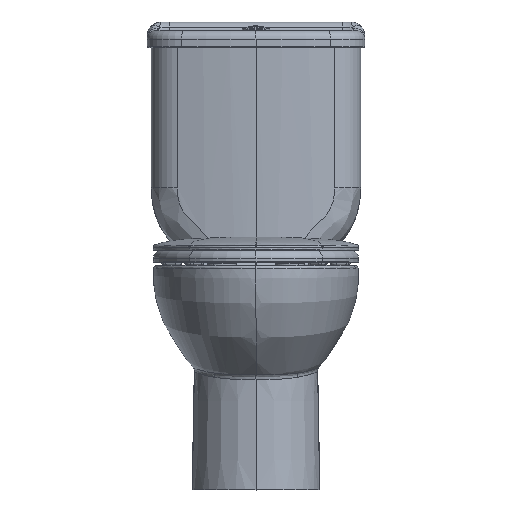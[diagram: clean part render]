
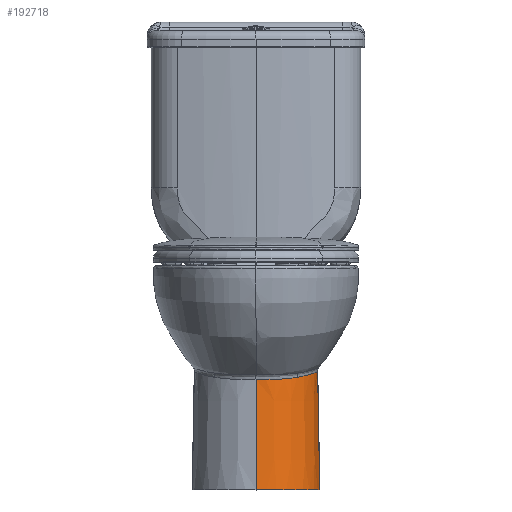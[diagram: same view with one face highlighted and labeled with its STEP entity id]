
A CAD part, top view. The second image highlights one B-rep face of the part: STEP entity #192718.
In plain terms, the highlighted conical face has half-angle 1 degrees and reference radius 112.534 mm.
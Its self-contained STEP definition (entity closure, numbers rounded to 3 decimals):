
#4952 = CONICAL_SURFACE ( 'NONE', #448396, 112.534, 0.017 ) ;
#7455 = CARTESIAN_POINT ( 'NONE',  ( 53.579, -199.598, 218.853 ) ) ;
#7769 = CARTESIAN_POINT ( 'NONE',  ( 98.662, -190.88, 170.124 ) ) ;
#12640 = CARTESIAN_POINT ( 'NONE',  ( 67.265, -197.977, 209.639 ) ) ;
#12976 = DIRECTION ( 'NONE',  ( 0., -1., 0.017 ) ) ;
#15212 = CARTESIAN_POINT ( 'NONE',  ( 61.958, -198.708, 213.602 ) ) ;
#20016 = DIRECTION ( 'NONE',  ( 0.017, -1., 0.002 ) ) ;
#22655 = ORIENTED_EDGE ( 'NONE', *, *, #349271, .T. ) ;
#39108 = ORIENTED_EDGE ( 'NONE', *, *, #279037, .F. ) ;
#43920 = VERTEX_POINT ( 'NONE', #283541 ) ;
#46772 = CARTESIAN_POINT ( 'NONE',  ( 69.85, -197.582, 207.542 ) ) ;
#47091 = CARTESIAN_POINT ( 'NONE',  ( 90.249, -193.365, 184.977 ) ) ;
#49357 = CARTESIAN_POINT ( 'NONE',  ( 46.219, -200.12, 222.608 ) ) ;
#54510 = CARTESIAN_POINT ( 'NONE',  ( 3.027, -200.896, 232.847 ) ) ;
#70404 = B_SPLINE_CURVE_WITH_KNOTS ( 'NONE', 3,
 ( #402974, #334704, #54510, #209135, #295436, #292862, #413325, #214282, #452604, #285101, #88633, #455175, #366260, #245820, #250992, #86041, #169815, #329561, #326964, #211715, #49357, #371436, #7455, #374016, #15212, #494482, #12640, #46772, #248418, #167222 ),
 .UNSPECIFIED., .F., .F.,
 ( 4, 2, 2, 2, 2, 2, 2, 2, 2, 2, 2, 2, 2, 2, 4 ),
 ( 0., 0.057, 0.12, 0.245, 0.371, 0.434, 0.466, 0.481, 0.497, 0.56, 0.623, 0.748, 0.874, 0.937, 1. ),
 .UNSPECIFIED. ) ;
#74105 = LINE ( 'NONE', #140455, #285534 ) ;
#78349 = EDGE_CURVE ( 'NONE', #477175, #396627, #74105, .T. ) ;
#81174 = CARTESIAN_POINT ( 'NONE',  ( 100.052, -190.398, 167.022 ) ) ;
#86041 = CARTESIAN_POINT ( 'NONE',  ( 37.757, -200.473, 226.133 ) ) ;
#87164 = CARTESIAN_POINT ( 'NONE',  ( 112.026, -395., 134.418 ) ) ;
#88633 = CARTESIAN_POINT ( 'NONE',  ( 32.235, -200.578, 228.017 ) ) ;
#117900 = CARTESIAN_POINT ( 'NONE',  ( 74.923, -196.731, 203.076 ) ) ;
#123041 = CARTESIAN_POINT ( 'NONE',  ( 77.362, -196.272, 200.686 ) ) ;
#135975 = LINE ( 'NONE', #295770, #457994 ) ;
#137218 = VERTEX_POINT ( 'NONE', #274329 ) ;
#140455 = CARTESIAN_POINT ( 'NONE',  ( 112.026, -395., 134.418 ) ) ;
#157182 = CARTESIAN_POINT ( 'NONE',  ( 81.99, -195.329, 195.711 ) ) ;
#164132 = CARTESIAN_POINT ( 'NONE',  ( 0., -200.898, 232.878 ) ) ;
#167222 = CARTESIAN_POINT ( 'NONE',  ( 72.353, -197.167, 205.364 ) ) ;
#167544 = CARTESIAN_POINT ( 'NONE',  ( 84.178, -194.844, 193.125 ) ) ;
#169815 = CARTESIAN_POINT ( 'NONE',  ( 38.149, -200.462, 225.987 ) ) ;
#187999 =( BOUNDED_CURVE ( )  B_SPLINE_CURVE ( 3, ( #408481, #117900, #123041, #157182, #167544, #476722, #47091, #316956, #285416, #484447, #199083, #327285, #405896, #7769, #81174, #240950, #366577, #481873, #445165, #282818, #280230, #206859, #369180, #487053 ),
 .UNSPECIFIED., .F., .F. ) 
 B_SPLINE_CURVE_WITH_KNOTS ( ( 4, 2, 2, 2, 2, 2, 2, 2, 2, 2, 2, 4 ),
 ( 0., 0.125, 0.25, 0.375, 0.437, 0.469, 0.5, 0.625, 0.75, 0.875, 0.938, 1. ),
 .UNSPECIFIED. ) 
 CURVE ( )  GEOMETRIC_REPRESENTATION_ITEM ( )  RATIONAL_B_SPLINE_CURVE ( ( 1., 1., 1., 1., 1., 1., 1., 1., 1., 1., 1., 1., 1., 1., 1., 1., 1., 1., 1., 1., 1., 1., 1., 1. ) ) 
 REPRESENTATION_ITEM ( '' )  );
#189906 = DIRECTION ( 'NONE',  ( 0., -1., 0. ) ) ;
#192718 = ADVANCED_FACE ( 'NONE', ( #433402 ), #4952, .T. ) ;
#195208 = DIRECTION ( 'NONE',  ( 0., 0., 1. ) ) ;
#199083 = CARTESIAN_POINT ( 'NONE',  ( 95.531, -191.867, 176.201 ) ) ;
#206859 = CARTESIAN_POINT ( 'NONE',  ( 108.035, -186.513, 137.498 ) ) ;
#208070 = EDGE_CURVE ( 'NONE', #43920, #477175, #187999, .T. ) ;
#209135 = CARTESIAN_POINT ( 'NONE',  ( 6.21, -200.885, 232.714 ) ) ;
#210367 = ORIENTED_EDGE ( 'NONE', *, *, #383541, .T. ) ;
#211715 = CARTESIAN_POINT ( 'NONE',  ( 44.712, -200.203, 223.301 ) ) ;
#214282 = CARTESIAN_POINT ( 'NONE',  ( 22.63, -200.725, 230.555 ) ) ;
#226962 = AXIS2_PLACEMENT_3D ( 'NONE', #391678, #433551, #195208 ) ;
#240950 = CARTESIAN_POINT ( 'NONE',  ( 102.534, -189.462, 160.713 ) ) ;
#245820 = CARTESIAN_POINT ( 'NONE',  ( 36.578, -200.501, 226.56 ) ) ;
#248418 = CARTESIAN_POINT ( 'NONE',  ( 71.118, -197.377, 206.463 ) ) ;
#250992 = CARTESIAN_POINT ( 'NONE',  ( 36.972, -200.492, 226.419 ) ) ;
#271073 = DIRECTION ( 'NONE',  ( 0., 0., 1. ) ) ;
#274329 = CARTESIAN_POINT ( 'NONE',  ( 0., -395., 236.266 ) ) ;
#279037 = EDGE_CURVE ( 'NONE', #291677, #43920, #70404, .T. ) ;
#280230 = CARTESIAN_POINT ( 'NONE',  ( 107.552, -186.899, 140.908 ) ) ;
#282818 = CARTESIAN_POINT ( 'NONE',  ( 107.27, -187.098, 142.609 ) ) ;
#283541 = CARTESIAN_POINT ( 'NONE',  ( 72.353, -197.167, 205.364 ) ) ;
#285101 = CARTESIAN_POINT ( 'NONE',  ( 30.645, -200.602, 228.496 ) ) ;
#285416 = CARTESIAN_POINT ( 'NONE',  ( 93.849, -192.367, 179.19 ) ) ;
#285534 = VECTOR ( 'NONE', #20016, 1000. ) ;
#291677 = VERTEX_POINT ( 'NONE', #164132 ) ;
#292862 = CARTESIAN_POINT ( 'NONE',  ( 12.842, -200.842, 232.17 ) ) ;
#295436 = CARTESIAN_POINT ( 'NONE',  ( 7.873, -200.876, 232.606 ) ) ;
#295770 = CARTESIAN_POINT ( 'NONE',  ( 0., -395., 236.266 ) ) ;
#316956 = CARTESIAN_POINT ( 'NONE',  ( 92.973, -192.617, 180.656 ) ) ;
#326964 = CARTESIAN_POINT ( 'NONE',  ( 41.657, -200.345, 224.62 ) ) ;
#327285 = CARTESIAN_POINT ( 'NONE',  ( 96.34, -191.619, 174.691 ) ) ;
#329561 = CARTESIAN_POINT ( 'NONE',  ( 40.108, -200.404, 225.247 ) ) ;
#334704 = CARTESIAN_POINT ( 'NONE',  ( 1.509, -200.898, 232.878 ) ) ;
#344893 = EDGE_LOOP ( 'NONE', ( #39108, #22655, #210367, #353679, #452351 ) ) ;
#349271 = EDGE_CURVE ( 'NONE', #291677, #137218, #135975, .T. ) ;
#353679 = ORIENTED_EDGE ( 'NONE', *, *, #78349, .F. ) ;
#366260 = CARTESIAN_POINT ( 'NONE',  ( 35.397, -200.526, 226.976 ) ) ;
#366577 = CARTESIAN_POINT ( 'NONE',  ( 103.627, -189.007, 157.505 ) ) ;
#369180 = CARTESIAN_POINT ( 'NONE',  ( 108.236, -186.325, 135.788 ) ) ;
#371436 = CARTESIAN_POINT ( 'NONE',  ( 50.683, -199.836, 220.433 ) ) ;
#374016 = CARTESIAN_POINT ( 'NONE',  ( 59.217, -199.034, 215.438 ) ) ;
#383541 = EDGE_CURVE ( 'NONE', #137218, #396627, #443388, .T. ) ;
#391678 = CARTESIAN_POINT ( 'NONE',  ( 0., -395., 123.732 ) ) ;
#396627 = VERTEX_POINT ( 'NONE', #87164 ) ;
#402974 = CARTESIAN_POINT ( 'NONE',  ( 0., -200.898, 232.878 ) ) ;
#405896 = CARTESIAN_POINT ( 'NONE',  ( 96.735, -191.495, 173.933 ) ) ;
#408481 = CARTESIAN_POINT ( 'NONE',  ( 72.353, -197.167, 205.364 ) ) ;
#413325 = CARTESIAN_POINT ( 'NONE',  ( 16.124, -200.807, 231.73 ) ) ;
#430831 = CARTESIAN_POINT ( 'NONE',  ( 0., -395., 123.732 ) ) ;
#433402 = FACE_OUTER_BOUND ( 'NONE', #344893, .T. ) ;
#433551 = DIRECTION ( 'NONE',  ( 0., 1., 0. ) ) ;
#437050 = CARTESIAN_POINT ( 'NONE',  ( 108.396, -186.143, 134.071 ) ) ;
#443388 = CIRCLE ( 'NONE', #226962, 112.534 ) ;
#445165 = CARTESIAN_POINT ( 'NONE',  ( 106.309, -187.707, 147.666 ) ) ;
#448396 = AXIS2_PLACEMENT_3D ( 'NONE', #430831, #189906, #271073 ) ;
#452351 = ORIENTED_EDGE ( 'NONE', *, *, #208070, .F. ) ;
#452604 = CARTESIAN_POINT ( 'NONE',  ( 25.853, -200.677, 229.82 ) ) ;
#455175 = CARTESIAN_POINT ( 'NONE',  ( 34.608, -200.539, 227.243 ) ) ;
#457994 = VECTOR ( 'NONE', #12976, 1000. ) ;
#476722 = CARTESIAN_POINT ( 'NONE',  ( 88.308, -193.862, 187.758 ) ) ;
#477175 = VERTEX_POINT ( 'NONE', #437050 ) ;
#481873 = CARTESIAN_POINT ( 'NONE',  ( 105.514, -188.129, 150.981 ) ) ;
#484447 = CARTESIAN_POINT ( 'NONE',  ( 95.116, -191.992, 176.954 ) ) ;
#487053 = CARTESIAN_POINT ( 'NONE',  ( 108.396, -186.143, 134.071 ) ) ;
#494482 = CARTESIAN_POINT ( 'NONE',  ( 65.953, -198.166, 210.654 ) ) ;
